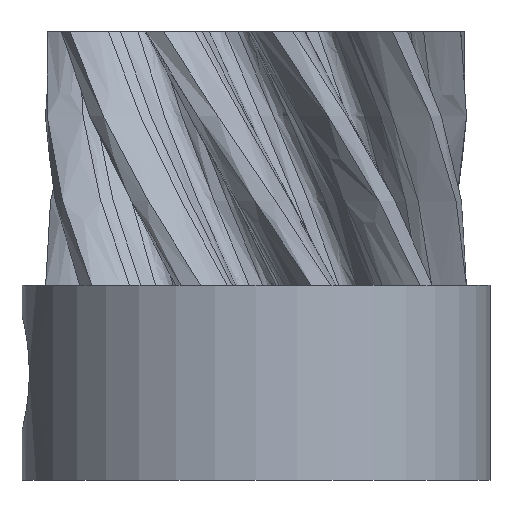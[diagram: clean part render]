
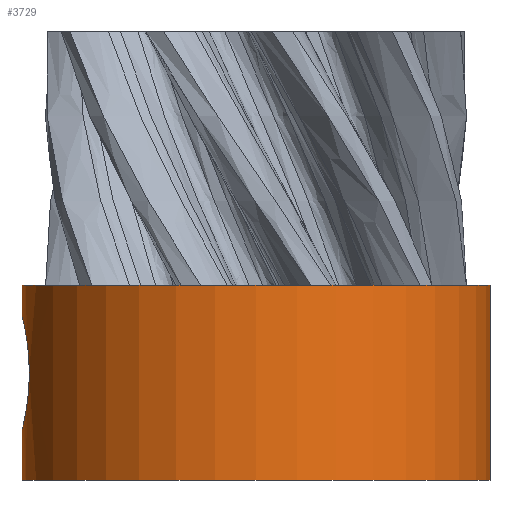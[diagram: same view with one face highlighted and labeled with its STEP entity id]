
A CAD part, front view. The second image highlights one B-rep face of the part: STEP entity #3729.
In plain terms, the highlighted cylindrical face has radius 12 mm (diameter 24 mm), a partial arc.
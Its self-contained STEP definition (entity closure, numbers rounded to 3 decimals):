
#342=DIRECTION('',(0.,0.,1.));
#343=VECTOR('',#342,2.55);
#344=CARTESIAN_POINT('',(-39.85,0.,366.9));
#345=LINE('',#344,#343);
#349=DIRECTION('',(0.,0.,1.));
#350=VECTOR('',#349,1.55);
#351=CARTESIAN_POINT('',(-39.85,0.,375.35));
#352=LINE('',#351,#350);
#378=CARTESIAN_POINT('',(-39.85,0.,375.35));
#379=CARTESIAN_POINT('',(-39.85,-0.197,375.35));
#380=CARTESIAN_POINT('',(-39.84,-0.59,
375.311));
#381=CARTESIAN_POINT('',(-39.798,-1.155,375.135));
#382=CARTESIAN_POINT('',(-39.738,-1.658,374.864));
#383=CARTESIAN_POINT('',(-39.662,-2.13,374.473));
#384=CARTESIAN_POINT('',(-39.587,-2.507,373.99));
#385=CARTESIAN_POINT('',(-39.53,-2.756,373.5));
#386=CARTESIAN_POINT('',(-39.49,-2.917,372.951));
#387=CARTESIAN_POINT('',(-39.482,-2.95,372.583));
#388=CARTESIAN_POINT('',(-39.482,-2.95,372.4));
#400=DIRECTION('',(0.,0.,1.));
#401=VECTOR('',#400,10.);
#402=CARTESIAN_POINT('',(-15.85,0.,366.9));
#403=LINE('',#402,#401);
#407=CARTESIAN_POINT('',(-39.482,-2.95,372.4));
#408=CARTESIAN_POINT('',(-39.482,-2.95,372.188));
#409=CARTESIAN_POINT('',(-39.493,-2.905,371.782));
#410=CARTESIAN_POINT('',(-39.538,-2.723,371.219));
#411=CARTESIAN_POINT('',(-39.599,-2.451,370.725));
#412=CARTESIAN_POINT('',(-39.673,-2.069,370.268));
#413=CARTESIAN_POINT('',(-39.746,-1.599,369.9));
#414=CARTESIAN_POINT('',(-39.801,-1.12,369.653));
#415=CARTESIAN_POINT('',(-39.841,-0.573,
369.487));
#416=CARTESIAN_POINT('',(-39.85,-0.195,369.45));
#417=CARTESIAN_POINT('',(-39.85,0.,369.45));
#430=CARTESIAN_POINT('',(-27.85,0.,376.9));
#431=DIRECTION('',(0.,0.,1.));
#432=DIRECTION('',(-1.,0.,0.));
#433=AXIS2_PLACEMENT_3D('',#430,#431,#432);
#3169=CARTESIAN_POINT('',(-27.85,0.,366.9));
#3170=DIRECTION('',(0.,0.,1.));
#3171=DIRECTION('',(-1.,0.,0.));
#3172=AXIS2_PLACEMENT_3D('',#3169,#3170,#3171);
#3616=CARTESIAN_POINT('',(-39.85,0.,366.9));
#3617=CARTESIAN_POINT('',(-39.85,0.,369.45));
#3618=VERTEX_POINT('',#3616);
#3619=VERTEX_POINT('',#3617);
#3620=CARTESIAN_POINT('',(-39.85,0.,375.35));
#3621=CARTESIAN_POINT('',(-39.85,0.,376.9));
#3622=VERTEX_POINT('',#3620);
#3623=VERTEX_POINT('',#3621);
#3624=CARTESIAN_POINT('',(-15.85,0.,376.9));
#3625=VERTEX_POINT('',#3624);
#3626=CARTESIAN_POINT('',(-15.85,0.,366.9));
#3627=VERTEX_POINT('',#3626);
#3629=VERTEX_POINT('',#407);
#3713=CARTESIAN_POINT('',(-27.85,0.,366.9));
#3714=DIRECTION('',(0.,0.,1.));
#3715=DIRECTION('',(1.,0.,0.));
#3716=AXIS2_PLACEMENT_3D('',#3713,#3714,#3715);
#3717=CYLINDRICAL_SURFACE('',#3716,12.);
#3718=ORIENTED_EDGE('',*,*,#3703,.F.);
#3719=ORIENTED_EDGE('',*,*,#3676,.T.);
#3721=ORIENTED_EDGE('',*,*,#3720,.T.);
#3722=ORIENTED_EDGE('',*,*,#3672,.F.);
#3724=ORIENTED_EDGE('',*,*,#3723,.F.);
#3725=ORIENTED_EDGE('',*,*,#3668,.T.);
#3726=ORIENTED_EDGE('',*,*,#3705,.F.);
#3727=EDGE_LOOP('',(#3718,#3719,#3721,#3722,#3724,#3725,#3726));
#3728=FACE_OUTER_BOUND('',#3727,.F.);
#389=B_SPLINE_CURVE_WITH_KNOTS('',3,(#378,#379,#380,#381,#382,#383,#384,#385,
#386,#387,#388),.UNSPECIFIED.,.F.,.F.,(4,1,1,1,1,1,1,1,4),(0.,0.125,0.25,
0.375,0.5,0.625,0.75,0.875,1.),.UNSPECIFIED.);
#418=B_SPLINE_CURVE_WITH_KNOTS('',3,(#407,#408,#409,#410,#411,#412,#413,#414,
#415,#416,#417),.UNSPECIFIED.,.F.,.F.,(4,1,1,1,1,1,1,1,4),(0.,0.125,0.25,
0.375,0.5,0.625,0.75,0.875,1.),.UNSPECIFIED.);
#434=CIRCLE('',#433,12.);
#3173=CIRCLE('',#3172,12.);
#3668=EDGE_CURVE('',#3618,#3619,#345,.T.);
#3672=EDGE_CURVE('',#3627,#3625,#403,.T.);
#3676=EDGE_CURVE('',#3622,#3623,#352,.T.);
#3703=EDGE_CURVE('',#3622,#3629,#389,.T.);
#3705=EDGE_CURVE('',#3629,#3619,#418,.T.);
#3720=EDGE_CURVE('',#3623,#3625,#434,.T.);
#3723=EDGE_CURVE('',#3618,#3627,#3173,.T.);
#3729=ADVANCED_FACE('',(#3728),#3717,.T.);
